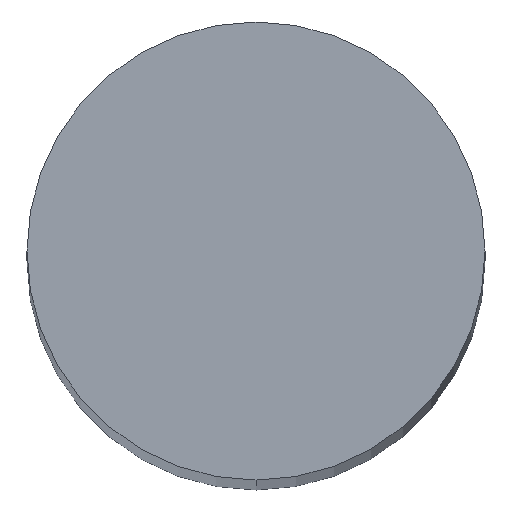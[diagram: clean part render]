
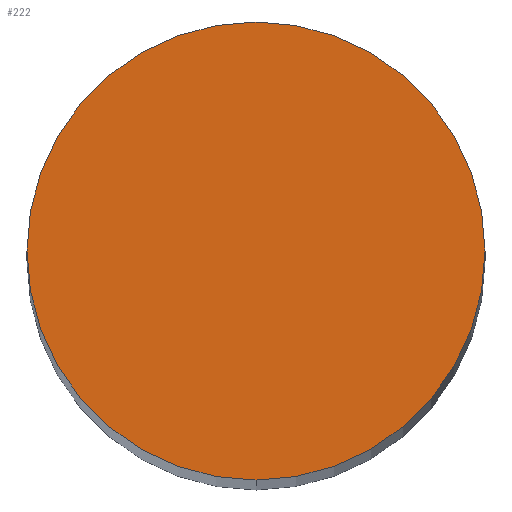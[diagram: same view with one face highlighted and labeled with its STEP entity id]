
A CAD part, top view. The second image highlights one B-rep face of the part: STEP entity #222.
In plain terms, the highlighted planar face has unit normal (0, 0, 1).
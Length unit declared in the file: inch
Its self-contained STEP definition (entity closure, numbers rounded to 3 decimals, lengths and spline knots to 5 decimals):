
#163=CARTESIAN_POINT('',(0.0,-0.0625,2.5));
#164=VERTEX_POINT('',#163);
#171=CARTESIAN_POINT('',(0.0,0.0625,2.5));
#172=VERTEX_POINT('',#171);
#173=CARTESIAN_POINT('',(0.0,0.0,2.5));
#174=DIRECTION('',(0.0,-0.0,-1.0));
#175=DIRECTION('',(0.0,1.0,-0.0));
#176=AXIS2_PLACEMENT_3D('',#173,#174,#175);
#177=CIRCLE('',#176,0.0625);
#178=EDGE_CURVE('no 1476',#164,#172,#177,.T.);
#198=CARTESIAN_POINT('',(0.0,0.0,2.5));
#199=DIRECTION('',(0.0,-0.0,-1.0));
#200=DIRECTION('',(0.0,1.0,-0.0));
#201=AXIS2_PLACEMENT_3D('',#198,#199,#200);
#202=CIRCLE('',#201,0.0625);
#203=EDGE_CURVE('no 1480',#172,#164,#202,.T.);
#213=ORIENTED_EDGE('',*,*,#178,.F.);
#214=ORIENTED_EDGE('',*,*,#203,.F.);
#215=EDGE_LOOP('',(#213,#214));
#216=FACE_OUTER_BOUND('',#215,.T.);
#217=CARTESIAN_POINT('',(0.0625,0.0,2.5));
#218=DIRECTION('',(0.0,0.0,1.0));
#219=DIRECTION('',(0.0,-1.0,0.0));
#220=AXIS2_PLACEMENT_3D('',#217,#218,#219);
#221=PLANE('',#220);
#222=ADVANCED_FACE('no 1590',(#216),#221,.T.);
